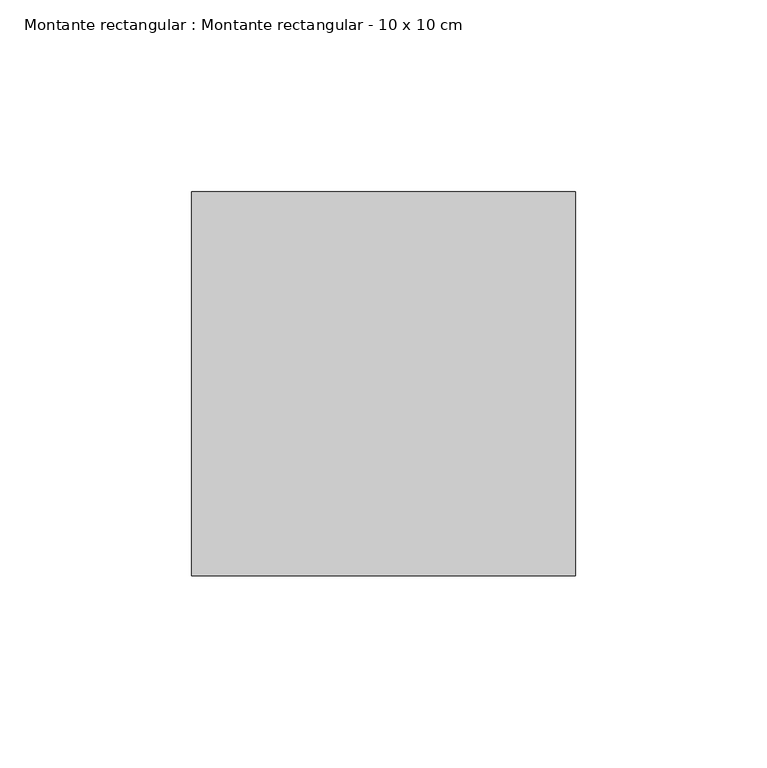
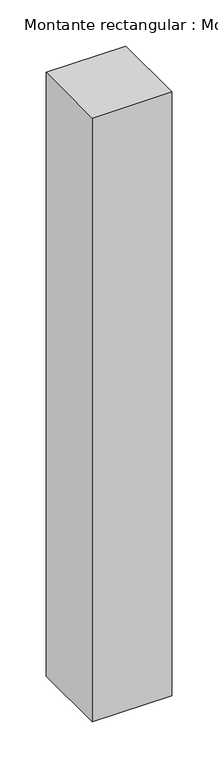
"""IFC4 building model written with IfcOpenShell, lengths in millimetres: member geometry, Montante rectangular : Montante rectangular - 10 x 10 cm."""

from ifc_helpers import new_model, si_unit, frame, origin, place, context, project, spatial, polyline, outline, extrude, source, transform, mapped, element, save


def montante_rectangular_montante_rectangular_10_x_10_cm_6973254e(model_context):
    return source(origin(), model_context, "Body", "SweptSolid", [
        extrude(outline(polyline([(-100.0, 50.0), (0.0, 50.0), (0.0, -50.0), (-100.0, -50.0), (-100.0, 50.0)])), frame((0.0, 0.0, -800.0), z_axis=(0.0, 0.0, 1.0), x_axis=(1.0, 0.0, 0.0)), (0.0, 0.0, 1.0), 800.0),
    ])


if __name__ == "__main__":
    model = new_model("IFC4")
    model_context = context("Model", 3, world=origin())
    ifc_project = project(units=[si_unit("LENGTHUNIT", "METRE", prefix="MILLI")], contexts=[model_context])
    site = spatial("IfcSite", under=ifc_project)
    building = spatial("IfcBuilding", under=site)
    placement = place(None, origin())
    montante_rectangular_montante_rectangular_10_x_10_cm_shape = montante_rectangular_montante_rectangular_10_x_10_cm_6973254e(model_context)
    element("IfcMember", 1, ObjectType="Montante rectangular : Montante rectangular - 10 x 10 cm", at=placement, inside=building, context=model_context, shape_type="MappedRepresentation", body=[
        mapped(montante_rectangular_montante_rectangular_10_x_10_cm_shape, transform((0.0, 0.0, 0.0), x_axis=(1.0, 0.0, 0.0), y_axis=(0.0, 1.0, 0.0), z_axis=(0.0, 0.0, 1.0))),
    ])
    save(model, "model.ifc")
